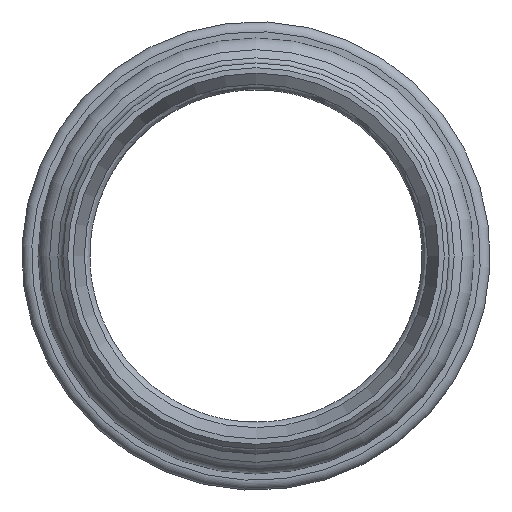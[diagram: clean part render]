
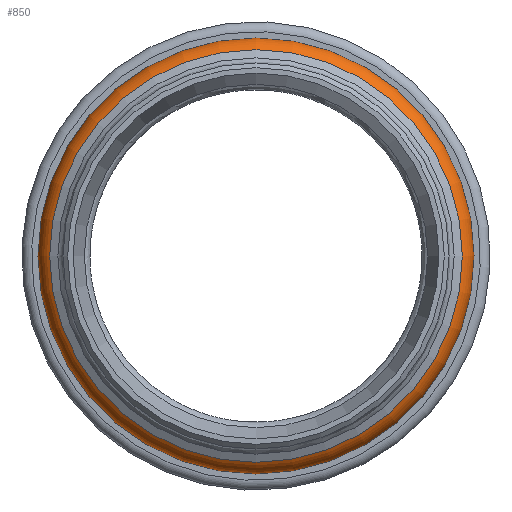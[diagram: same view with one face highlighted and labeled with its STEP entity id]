
A CAD part, left-side view. The second image highlights one B-rep face of the part: STEP entity #850.
In plain terms, the highlighted toroidal (fillet/blend) face has major radius 28.9 mm and minor radius 3.5 mm.
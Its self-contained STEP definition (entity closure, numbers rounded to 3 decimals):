
#608=CARTESIAN_POINT('',(-34.316,29.792,0.));
#609=VERTEX_POINT('',#608);
#610=CARTESIAN_POINT('',(-34.316,0.,0.0));
#611=DIRECTION('',(1.0,0.0,0.0));
#612=DIRECTION('',(0.0,-1.0,0.0));
#613=AXIS2_PLACEMENT_3D('',#610,#611,#612);
#614=CIRCLE('',#613,29.792);
#615=EDGE_CURVE('',#609,#609,#614,.T.);
#752=CARTESIAN_POINT('',(-40.731,30.65,0.0));
#753=VERTEX_POINT('',#752);
#754=CARTESIAN_POINT('',(-40.731,0.,0.0));
#755=DIRECTION('',(1.0,0.0,0.0));
#756=DIRECTION('',(0.0,1.0,0.0));
#757=AXIS2_PLACEMENT_3D('',#754,#755,#756);
#758=CIRCLE('',#757,30.65);
#759=EDGE_CURVE('',#753,#753,#758,.T.);
#839=CARTESIAN_POINT('',(-37.7,0.,0.0));
#840=DIRECTION('',(1.0,0.,0.0));
#841=DIRECTION('',(0.0,0.0,-1.0));
#842=AXIS2_PLACEMENT_3D('',#839,#840,#841);
#843=TOROIDAL_SURFACE('',#842,28.9,3.5);
#844=ORIENTED_EDGE('',*,*,#759,.T.);
#845=EDGE_LOOP('',(#844));
#846=FACE_OUTER_BOUND('',#845,.T.);
#847=ORIENTED_EDGE('',*,*,#615,.F.);
#848=EDGE_LOOP('',(#847));
#849=FACE_BOUND('',#848,.T.);
#850=ADVANCED_FACE('',(#846,#849),#843,.T.);
